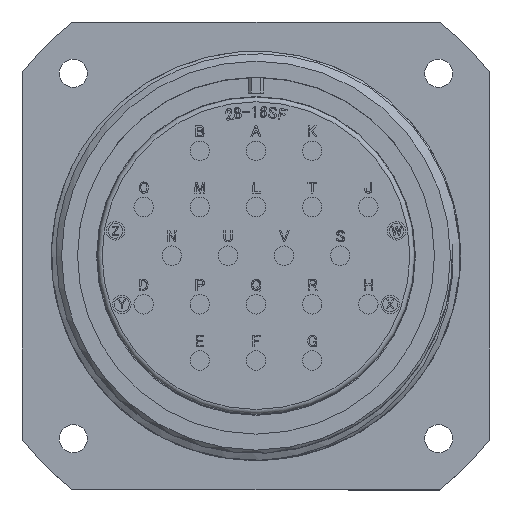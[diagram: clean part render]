
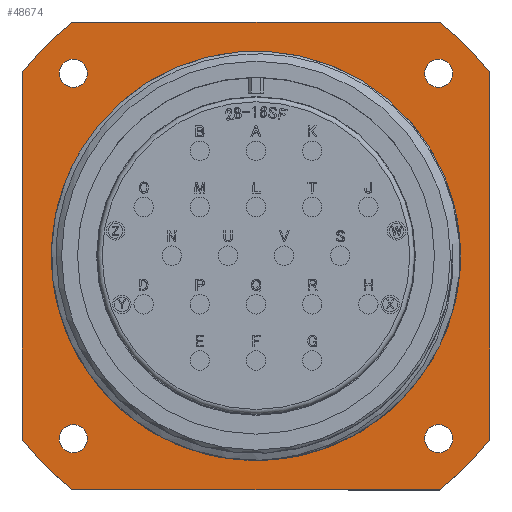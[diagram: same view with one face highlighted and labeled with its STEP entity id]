
A CAD part, top view. The second image highlights one B-rep face of the part: STEP entity #48674.
In plain terms, the highlighted planar face has unit normal (0, 0, 1).
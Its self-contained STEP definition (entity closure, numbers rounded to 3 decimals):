
#420 = EDGE_CURVE ( 'NONE', #49870, #44809, #42518, .T. ) ;
#872 = CARTESIAN_POINT ( 'NONE',  ( 19.872, -25.4, -20.8 ) ) ;
#2907 = CARTESIAN_POINT ( 'NONE',  ( -25.4, 25.4, -20.8 ) ) ;
#3696 = DIRECTION ( 'NONE',  ( 1., 0., 0. ) ) ;
#3807 = EDGE_CURVE ( 'NONE', #51999, #51999, #30518, .T. ) ;
#4033 = EDGE_CURVE ( 'NONE', #40983, #40983, #44686, .T. ) ;
#4829 = DIRECTION ( 'NONE',  ( 0., 0., 1. ) ) ;
#4918 = ORIENTED_EDGE ( 'NONE', *, *, #3807, .F. ) ;
#4959 = CARTESIAN_POINT ( 'NONE',  ( 19.835, 19.835, -20.8 ) ) ;
#5548 = AXIS2_PLACEMENT_3D ( 'NONE', #25973, #10756, #25121 ) ;
#7022 = ORIENTED_EDGE ( 'NONE', *, *, #38485, .F. ) ;
#7133 = ORIENTED_EDGE ( 'NONE', *, *, #32258, .T. ) ;
#7329 = FACE_OUTER_BOUND ( 'NONE', #32398, .T. ) ;
#7358 = CARTESIAN_POINT ( 'NONE',  ( 0., 0., -20.8 ) ) ;
#7845 = DIRECTION ( 'NONE',  ( 1., 0., 0. ) ) ;
#7969 = DIRECTION ( 'NONE',  ( 0., 0., 1. ) ) ;
#8645 = CARTESIAN_POINT ( 'NONE',  ( -19.872, -25.4, -20.8 ) ) ;
#8711 = EDGE_CURVE ( 'NONE', #38362, #44809, #20367, .T. ) ;
#9030 = VERTEX_POINT ( 'NONE', #872 ) ;
#9309 = VECTOR ( 'NONE', #58796, 1000. ) ;
#9674 = CARTESIAN_POINT ( 'NONE',  ( -19.872, 25.4, -20.8 ) ) ;
#10513 = ORIENTED_EDGE ( 'NONE', *, *, #35840, .F. ) ;
#10756 = DIRECTION ( 'NONE',  ( 0., 0., 1. ) ) ;
#10758 = ORIENTED_EDGE ( 'NONE', *, *, #52719, .F. ) ;
#10793 = VERTEX_POINT ( 'NONE', #57108 ) ;
#11273 = CARTESIAN_POINT ( 'NONE',  ( 0., 0., -20.8 ) ) ;
#11346 = DIRECTION ( 'NONE',  ( 1., 0., 0. ) ) ;
#12458 = EDGE_CURVE ( 'NONE', #63011, #63011, #47388, .T. ) ;
#12708 = AXIS2_PLACEMENT_3D ( 'NONE', #11273, #46677, #31085 ) ;
#13824 = VECTOR ( 'NONE', #58081, 1000. ) ;
#14169 = DIRECTION ( 'NONE',  ( 0., 1., 0. ) ) ;
#14178 = DIRECTION ( 'NONE',  ( 0., 0., 1. ) ) ;
#14180 = EDGE_LOOP ( 'NONE', ( #21476 ) ) ;
#14644 = ORIENTED_EDGE ( 'NONE', *, *, #51465, .F. ) ;
#16088 = ORIENTED_EDGE ( 'NONE', *, *, #48892, .T. ) ;
#16418 = CARTESIAN_POINT ( 'NONE',  ( 22.205, 0., -20.8 ) ) ;
#16970 = CARTESIAN_POINT ( 'NONE',  ( 19.835, -19.835, -20.8 ) ) ;
#18081 = AXIS2_PLACEMENT_3D ( 'NONE', #58008, #27879, #7845 ) ;
#19347 = LINE ( 'NONE', #22903, #13824 ) ;
#20367 = LINE ( 'NONE', #2907, #9309 ) ;
#20714 = FACE_BOUND ( 'NONE', #62795, .T. ) ;
#21476 = ORIENTED_EDGE ( 'NONE', *, *, #4033, .F. ) ;
#22279 = AXIS2_PLACEMENT_3D ( 'NONE', #4959, #14178, #49608 ) ;
#22799 = LINE ( 'NONE', #44344, #43250 ) ;
#22903 = CARTESIAN_POINT ( 'NONE',  ( -25.4, 25.4, -20.8 ) ) ;
#23164 = AXIS2_PLACEMENT_3D ( 'NONE', #26315, #41257, #61271 ) ;
#24044 = AXIS2_PLACEMENT_3D ( 'NONE', #28798, #59584, #3696 ) ;
#25121 = DIRECTION ( 'NONE',  ( 1., 0., 0. ) ) ;
#25160 = DIRECTION ( 'NONE',  ( 1., 0., 0. ) ) ;
#25178 = DIRECTION ( 'NONE',  ( 0., 0., -1. ) ) ;
#25973 = CARTESIAN_POINT ( 'NONE',  ( -19.835, 19.835, -20.8 ) ) ;
#26315 = CARTESIAN_POINT ( 'NONE',  ( 0., 0., -20.8 ) ) ;
#27569 = EDGE_CURVE ( 'NONE', #43730, #58695, #22799, .T. ) ;
#27842 = CARTESIAN_POINT ( 'NONE',  ( 19.872, 25.4, -20.8 ) ) ;
#27879 = DIRECTION ( 'NONE',  ( 0., 0., -1. ) ) ;
#28798 = CARTESIAN_POINT ( 'NONE',  ( -19.835, -19.835, -20.8 ) ) ;
#29799 = ORIENTED_EDGE ( 'NONE', *, *, #12458, .F. ) ;
#29831 = AXIS2_PLACEMENT_3D ( 'NONE', #45497, #4829, #35176 ) ;
#30518 = CIRCLE ( 'NONE', #54879, 1.525 ) ;
#31085 = DIRECTION ( 'NONE',  ( 1., 0., 0. ) ) ;
#32110 = CARTESIAN_POINT ( 'NONE',  ( -25.4, 19.872, -20.8 ) ) ;
#32258 = EDGE_CURVE ( 'NONE', #49870, #10793, #19347, .T. ) ;
#32398 = EDGE_LOOP ( 'NONE', ( #64492, #59775, #51535, #7133, #14644, #16088, #7022, #33931 ) ) ;
#32418 = PLANE ( 'NONE',  #36532 ) ;
#33721 = AXIS2_PLACEMENT_3D ( 'NONE', #35060, #25178, #49581 ) ;
#33931 = ORIENTED_EDGE ( 'NONE', *, *, #27569, .T. ) ;
#34083 = FACE_BOUND ( 'NONE', #37993, .T. ) ;
#35060 = CARTESIAN_POINT ( 'NONE',  ( 0., 0., -20.8 ) ) ;
#35176 = DIRECTION ( 'NONE',  ( 1., 0., 0. ) ) ;
#35453 = DIRECTION ( 'NONE',  ( 0., 0., 1. ) ) ;
#35522 = EDGE_LOOP ( 'NONE', ( #29799 ) ) ;
#35840 = EDGE_CURVE ( 'NONE', #39409, #39409, #48104, .T. ) ;
#36404 = FACE_BOUND ( 'NONE', #39347, .T. ) ;
#36532 = AXIS2_PLACEMENT_3D ( 'NONE', #7358, #35453, #25160 ) ;
#37993 = EDGE_LOOP ( 'NONE', ( #10513 ) ) ;
#38362 = VERTEX_POINT ( 'NONE', #27842 ) ;
#38485 = EDGE_CURVE ( 'NONE', #43730, #9030, #55806, .T. ) ;
#39347 = EDGE_LOOP ( 'NONE', ( #10758 ) ) ;
#39409 = VERTEX_POINT ( 'NONE', #52059 ) ;
#40983 = VERTEX_POINT ( 'NONE', #61547 ) ;
#41257 = DIRECTION ( 'NONE',  ( 0., 0., -1. ) ) ;
#41501 = CARTESIAN_POINT ( 'NONE',  ( -25.4, -25.4, -20.8 ) ) ;
#41731 = VERTEX_POINT ( 'NONE', #62423 ) ;
#42306 = EDGE_CURVE ( 'NONE', #38362, #58695, #44877, .T. ) ;
#42518 = CIRCLE ( 'NONE', #18081, 32.25 ) ;
#42769 = CARTESIAN_POINT ( 'NONE',  ( 25.4, 19.872, -20.8 ) ) ;
#43019 = CIRCLE ( 'NONE', #23164, 32.25 ) ;
#43250 = VECTOR ( 'NONE', #14169, 1000. ) ;
#43512 = VECTOR ( 'NONE', #11346, 1000. ) ;
#43730 = VERTEX_POINT ( 'NONE', #64116 ) ;
#44344 = CARTESIAN_POINT ( 'NONE',  ( 25.4, 25.4, -20.8 ) ) ;
#44686 = CIRCLE ( 'NONE', #5548, 1.525 ) ;
#44809 = VERTEX_POINT ( 'NONE', #9674 ) ;
#44877 = CIRCLE ( 'NONE', #12708, 32.25 ) ;
#45497 = CARTESIAN_POINT ( 'NONE',  ( 0., 0., -20.8 ) ) ;
#45875 = FACE_BOUND ( 'NONE', #35522, .T. ) ;
#46677 = DIRECTION ( 'NONE',  ( 0., 0., -1. ) ) ;
#47388 = CIRCLE ( 'NONE', #29831, 22.205 ) ;
#47457 = FACE_BOUND ( 'NONE', #14180, .T. ) ;
#48104 = CIRCLE ( 'NONE', #22279, 1.525 ) ;
#48674 = ADVANCED_FACE ( 'NONE', ( #47457, #34083, #20714, #36404, #7329, #45875 ), #32418, .T. ) ;
#48892 = EDGE_CURVE ( 'NONE', #54561, #9030, #52875, .T. ) ;
#49092 = DIRECTION ( 'NONE',  ( 1., 0., 0. ) ) ;
#49581 = DIRECTION ( 'NONE',  ( 1., 0., 0. ) ) ;
#49608 = DIRECTION ( 'NONE',  ( 1., 0., 0. ) ) ;
#49870 = VERTEX_POINT ( 'NONE', #32110 ) ;
#51406 = CARTESIAN_POINT ( 'NONE',  ( 21.36, -19.835, -20.8 ) ) ;
#51465 = EDGE_CURVE ( 'NONE', #54561, #10793, #43019, .T. ) ;
#51535 = ORIENTED_EDGE ( 'NONE', *, *, #420, .F. ) ;
#51999 = VERTEX_POINT ( 'NONE', #51406 ) ;
#52059 = CARTESIAN_POINT ( 'NONE',  ( 21.36, 19.835, -20.8 ) ) ;
#52719 = EDGE_CURVE ( 'NONE', #41731, #41731, #63326, .T. ) ;
#52875 = LINE ( 'NONE', #41501, #43512 ) ;
#54561 = VERTEX_POINT ( 'NONE', #8645 ) ;
#54879 = AXIS2_PLACEMENT_3D ( 'NONE', #16970, #7969, #49092 ) ;
#55806 = CIRCLE ( 'NONE', #33721, 32.25 ) ;
#57108 = CARTESIAN_POINT ( 'NONE',  ( -25.4, -19.872, -20.8 ) ) ;
#58008 = CARTESIAN_POINT ( 'NONE',  ( 0., 0., -20.8 ) ) ;
#58081 = DIRECTION ( 'NONE',  ( 0., -1., 0. ) ) ;
#58695 = VERTEX_POINT ( 'NONE', #42769 ) ;
#58796 = DIRECTION ( 'NONE',  ( -1., 0., 0. ) ) ;
#59584 = DIRECTION ( 'NONE',  ( 0., 0., 1. ) ) ;
#59775 = ORIENTED_EDGE ( 'NONE', *, *, #8711, .T. ) ;
#61271 = DIRECTION ( 'NONE',  ( 1., 0., 0. ) ) ;
#61547 = CARTESIAN_POINT ( 'NONE',  ( -18.31, 19.835, -20.8 ) ) ;
#62423 = CARTESIAN_POINT ( 'NONE',  ( -18.31, -19.835, -20.8 ) ) ;
#62795 = EDGE_LOOP ( 'NONE', ( #4918 ) ) ;
#63011 = VERTEX_POINT ( 'NONE', #16418 ) ;
#63326 = CIRCLE ( 'NONE', #24044, 1.525 ) ;
#64116 = CARTESIAN_POINT ( 'NONE',  ( 25.4, -19.872, -20.8 ) ) ;
#64492 = ORIENTED_EDGE ( 'NONE', *, *, #42306, .F. ) ;
